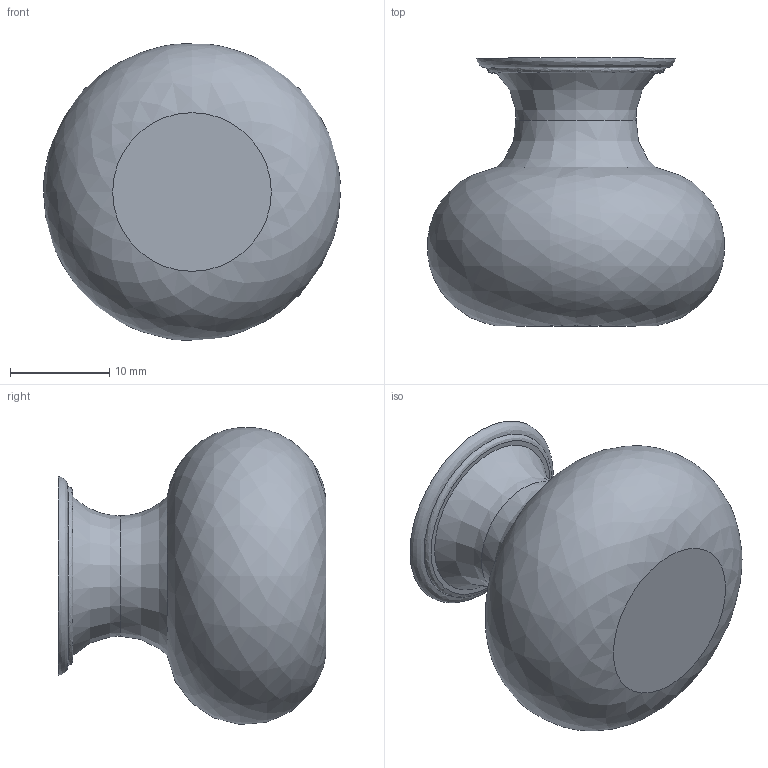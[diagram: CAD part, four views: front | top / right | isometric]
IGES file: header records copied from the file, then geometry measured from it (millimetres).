
Start section: Data from Parasolid IGES Translator 15.0.47, Copyright(c) 2006 Siemens P LM Software. All Rights Reserved.
Global section: file name: 9070581.igs; native system:  By UGS Corp.; preprocessor: XPlus GENERIC/IGES 3.0; author: Noname; organization: Noname; date: 20140122.140752; units: millimetre
Bounding box: 29.94 x 27 x 29.94 mm (x, y, z)
Surface area: 3071.5 mm2 (no closed solid volume)
Topology: 0 solids, 0 shells, 10 faces, 30 edges, 22 vertices
Faces by surface type: revolution 6, extrusion 4
